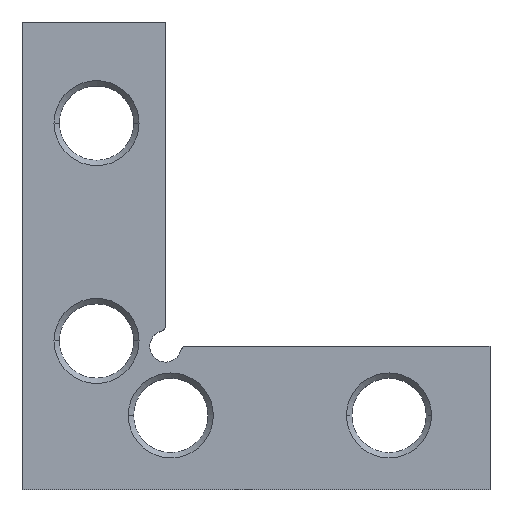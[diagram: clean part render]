
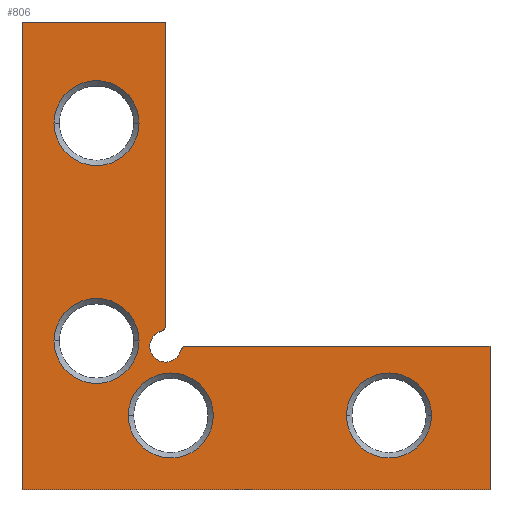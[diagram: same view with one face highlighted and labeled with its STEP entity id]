
A CAD part, top view. The second image highlights one B-rep face of the part: STEP entity #806.
In plain terms, the highlighted planar face has unit normal (0, 0, 1).
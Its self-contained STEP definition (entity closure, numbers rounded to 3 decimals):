
#6 = AXIS2_PLACEMENT_3D ( 'NONE', #348, #173, #773 ) ;
#9 = VECTOR ( 'NONE', #617, 1000. ) ;
#13 = EDGE_CURVE ( 'NONE', #371, #890, #328, .T. ) ;
#15 = DIRECTION ( 'NONE',  ( 0., -1., 0. ) ) ;
#19 = AXIS2_PLACEMENT_3D ( 'NONE', #51, #151, #832 ) ;
#20 = FACE_BOUND ( 'NONE', #830, .T. ) ;
#31 = CARTESIAN_POINT ( 'NONE',  ( 3.476, -16.21, 5. ) ) ;
#39 = CARTESIAN_POINT ( 'NONE',  ( -17.543, -7.789, 5. ) ) ;
#51 = CARTESIAN_POINT ( 'NONE',  ( -17.053, -16.21, 5. ) ) ;
#54 = DIRECTION ( 'NONE',  ( -1., 0., 0. ) ) ;
#55 = DIRECTION ( 'NONE',  ( 0., 1., 0. ) ) ;
#66 = VECTOR ( 'NONE', #785, 1000. ) ;
#75 = DIRECTION ( 'NONE',  ( 0., 0., -1. ) ) ;
#81 = ORIENTED_EDGE ( 'NONE', *, *, #419, .T. ) ;
#83 = ORIENTED_EDGE ( 'NONE', *, *, #537, .T. ) ;
#85 = DIRECTION ( 'NONE',  ( 0., 0., -1. ) ) ;
#92 = VECTOR ( 'NONE', #15, 1000. ) ;
#97 = EDGE_CURVE ( 'NONE', #893, #360, #474, .T. ) ;
#111 = CARTESIAN_POINT ( 'NONE',  ( -17.917, -8.273, 5. ) ) ;
#112 = CARTESIAN_POINT ( 'NONE',  ( 7.476, -16.21, 5. ) ) ;
#120 = DIRECTION ( 'NONE',  ( 0., 0., -1. ) ) ;
#129 = CARTESIAN_POINT ( 'NONE',  ( -13.053, -16.21, 5. ) ) ;
#130 = EDGE_CURVE ( 'NONE', #772, #890, #187, .T. ) ;
#133 = VERTEX_POINT ( 'NONE', #129 ) ;
#141 = VERTEX_POINT ( 'NONE', #230 ) ;
#151 = DIRECTION ( 'NONE',  ( 0., 0., -1. ) ) ;
#153 = CARTESIAN_POINT ( 'NONE',  ( 12.976, -23.201, 5. ) ) ;
#164 = PLANE ( 'NONE',  #510 ) ;
#173 = DIRECTION ( 'NONE',  ( 0., 0., -1. ) ) ;
#183 = AXIS2_PLACEMENT_3D ( 'NONE', #188, #288, #978 ) ;
#187 = CIRCLE ( 'NONE', #855, 0.5 ) ;
#188 = CARTESIAN_POINT ( 'NONE',  ( -17.543, -9.71, 5. ) ) ;
#190 = EDGE_CURVE ( 'NONE', #999, #893, #641, .T. ) ;
#210 = CARTESIAN_POINT ( 'NONE',  ( -28.043, 11.292, 5. ) ) ;
#212 = LINE ( 'NONE', #736, #1042 ) ;
#218 = VERTEX_POINT ( 'NONE', #239 ) ;
#219 = AXIS2_PLACEMENT_3D ( 'NONE', #969, #542, #1049 ) ;
#228 = ORIENTED_EDGE ( 'NONE', *, *, #733, .T. ) ;
#230 = CARTESIAN_POINT ( 'NONE',  ( -16.107, -10.084, 5. ) ) ;
#236 = CARTESIAN_POINT ( 'NONE',  ( -31.053, 20.792, 5. ) ) ;
#239 = CARTESIAN_POINT ( 'NONE',  ( -0.524, -16.21, 5. ) ) ;
#253 = FACE_BOUND ( 'NONE', #463, .T. ) ;
#261 = CARTESIAN_POINT ( 'NONE',  ( 0., 0., 5. ) ) ;
#287 = LINE ( 'NONE', #413, #514 ) ;
#288 = DIRECTION ( 'NONE',  ( 0., 0., 1. ) ) ;
#290 = EDGE_CURVE ( 'NONE', #360, #435, #287, .T. ) ;
#302 = DIRECTION ( 'NONE',  ( -1., 0., 0. ) ) ;
#303 = AXIS2_PLACEMENT_3D ( 'NONE', #31, #120, #302 ) ;
#304 = DIRECTION ( 'NONE',  ( 1., 0., 0. ) ) ;
#309 = EDGE_CURVE ( 'NONE', #611, #425, #485, .T. ) ;
#318 = VERTEX_POINT ( 'NONE', #650 ) ;
#324 = DIRECTION ( 'NONE',  ( 0., 0., -1. ) ) ;
#327 = CIRCLE ( 'NONE', #362, 0.5 ) ;
#328 = LINE ( 'NONE', #660, #92 ) ;
#342 = ORIENTED_EDGE ( 'NONE', *, *, #309, .T. ) ;
#348 = CARTESIAN_POINT ( 'NONE',  ( -24.043, -9.201, 5. ) ) ;
#359 = CARTESIAN_POINT ( 'NONE',  ( -20.043, -9.201, 5. ) ) ;
#360 = VERTEX_POINT ( 'NONE', #153 ) ;
#362 = AXIS2_PLACEMENT_3D ( 'NONE', #970, #373, #1053 ) ;
#371 = VERTEX_POINT ( 'NONE', #839 ) ;
#373 = DIRECTION ( 'NONE',  ( 0., 0., 1. ) ) ;
#381 = CIRCLE ( 'NONE', #6, 4. ) ;
#392 = DIRECTION ( 'NONE',  ( 0., 0., -1. ) ) ;
#407 = CIRCLE ( 'NONE', #1061, 4. ) ;
#411 = CARTESIAN_POINT ( 'NONE',  ( -24.043, 11.292, 5. ) ) ;
#413 = CARTESIAN_POINT ( 'NONE',  ( 12.976, -23.201, 5. ) ) ;
#414 = CARTESIAN_POINT ( 'NONE',  ( -18.043, -7.789, 5. ) ) ;
#419 = EDGE_CURVE ( 'NONE', #318, #693, #407, .T. ) ;
#425 = VERTEX_POINT ( 'NONE', #210 ) ;
#427 = EDGE_CURVE ( 'NONE', #693, #318, #381, .T. ) ;
#435 = VERTEX_POINT ( 'NONE', #1002 ) ;
#439 = AXIS2_PLACEMENT_3D ( 'NONE', #411, #324, #923 ) ;
#453 = ORIENTED_EDGE ( 'NONE', *, *, #290, .T. ) ;
#463 = EDGE_LOOP ( 'NONE', ( #552, #81 ) ) ;
#465 = CARTESIAN_POINT ( 'NONE',  ( -20.043, 11.292, 5. ) ) ;
#474 = LINE ( 'NONE', #505, #9 ) ;
#481 = EDGE_CURVE ( 'NONE', #999, #371, #778, .T. ) ;
#485 = CIRCLE ( 'NONE', #439, 4. ) ;
#488 = EDGE_CURVE ( 'NONE', #772, #141, #1008, .T. ) ;
#490 = CARTESIAN_POINT ( 'NONE',  ( -24.043, -9.201, 5. ) ) ;
#500 = DIRECTION ( 'NONE',  ( 0., 0., -1. ) ) ;
#505 = CARTESIAN_POINT ( 'NONE',  ( -31.053, -23.201, 5. ) ) ;
#510 = AXIS2_PLACEMENT_3D ( 'NONE', #261, #75, #1102 ) ;
#514 = VECTOR ( 'NONE', #55, 1000. ) ;
#516 = EDGE_LOOP ( 'NONE', ( #342, #744 ) ) ;
#527 = CARTESIAN_POINT ( 'NONE',  ( -21.053, -16.21, 5. ) ) ;
#533 = EDGE_CURVE ( 'NONE', #583, #218, #576, .T. ) ;
#536 = CIRCLE ( 'NONE', #219, 4. ) ;
#537 = EDGE_CURVE ( 'NONE', #643, #141, #327, .T. ) ;
#542 = DIRECTION ( 'NONE',  ( 0., 0., -1. ) ) ;
#546 = ORIENTED_EDGE ( 'NONE', *, *, #990, .T. ) ;
#550 = VECTOR ( 'NONE', #610, 1000. ) ;
#552 = ORIENTED_EDGE ( 'NONE', *, *, #427, .T. ) ;
#555 = CARTESIAN_POINT ( 'NONE',  ( -31.053, -23.201, 5. ) ) ;
#576 = CIRCLE ( 'NONE', #303, 4. ) ;
#583 = VERTEX_POINT ( 'NONE', #112 ) ;
#591 = DIRECTION ( 'NONE',  ( -1., 0., 0. ) ) ;
#595 = ORIENTED_EDGE ( 'NONE', *, *, #488, .F. ) ;
#604 = DIRECTION ( 'NONE',  ( -1., 0., 0. ) ) ;
#606 = ORIENTED_EDGE ( 'NONE', *, *, #130, .T. ) ;
#610 = DIRECTION ( 'NONE',  ( 1., 0., 0. ) ) ;
#611 = VERTEX_POINT ( 'NONE', #465 ) ;
#617 = DIRECTION ( 'NONE',  ( 1., 0., 0. ) ) ;
#641 = LINE ( 'NONE', #992, #66 ) ;
#643 = VERTEX_POINT ( 'NONE', #864 ) ;
#649 = ORIENTED_EDGE ( 'NONE', *, *, #1095, .F. ) ;
#650 = CARTESIAN_POINT ( 'NONE',  ( -28.043, -9.201, 5. ) ) ;
#660 = CARTESIAN_POINT ( 'NONE',  ( -17.543, 20.792, 5. ) ) ;
#673 = CARTESIAN_POINT ( 'NONE',  ( -31.053, 20.792, 5. ) ) ;
#675 = EDGE_CURVE ( 'NONE', #425, #611, #1088, .T. ) ;
#676 = ORIENTED_EDGE ( 'NONE', *, *, #481, .F. ) ;
#685 = FACE_BOUND ( 'NONE', #516, .T. ) ;
#693 = VERTEX_POINT ( 'NONE', #359 ) ;
#733 = EDGE_CURVE ( 'NONE', #218, #583, #536, .T. ) ;
#736 = CARTESIAN_POINT ( 'NONE',  ( -17.543, -9.71, 5. ) ) ;
#744 = ORIENTED_EDGE ( 'NONE', *, *, #675, .T. ) ;
#772 = VERTEX_POINT ( 'NONE', #111 ) ;
#773 = DIRECTION ( 'NONE',  ( -1., 0., 0. ) ) ;
#774 = ORIENTED_EDGE ( 'NONE', *, *, #97, .T. ) ;
#778 = LINE ( 'NONE', #673, #550 ) ;
#785 = DIRECTION ( 'NONE',  ( 0., -1., 0. ) ) ;
#804 = EDGE_LOOP ( 'NONE', ( #1009, #228 ) ) ;
#805 = ORIENTED_EDGE ( 'NONE', *, *, #930, .T. ) ;
#806 = ADVANCED_FACE ( 'NONE', ( #907, #253, #685, #20, #963 ), #164, .F. ) ;
#825 = CIRCLE ( 'NONE', #905, 4. ) ;
#830 = EDGE_LOOP ( 'NONE', ( #546, #805 ) ) ;
#832 = DIRECTION ( 'NONE',  ( -1., 0., 0. ) ) ;
#839 = CARTESIAN_POINT ( 'NONE',  ( -17.543, 20.792, 5. ) ) ;
#855 = AXIS2_PLACEMENT_3D ( 'NONE', #414, #945, #54 ) ;
#864 = CARTESIAN_POINT ( 'NONE',  ( -15.623, -9.71, 5. ) ) ;
#890 = VERTEX_POINT ( 'NONE', #39 ) ;
#893 = VERTEX_POINT ( 'NONE', #555 ) ;
#898 = ORIENTED_EDGE ( 'NONE', *, *, #190, .T. ) ;
#899 = CARTESIAN_POINT ( 'NONE',  ( -24.043, 11.292, 5. ) ) ;
#905 = AXIS2_PLACEMENT_3D ( 'NONE', #1015, #500, #591 ) ;
#907 = FACE_BOUND ( 'NONE', #804, .T. ) ;
#911 = EDGE_LOOP ( 'NONE', ( #649, #83, #595, #606, #959, #676, #898, #774, #453 ) ) ;
#919 = CIRCLE ( 'NONE', #19, 4. ) ;
#923 = DIRECTION ( 'NONE',  ( -1., 0., 0. ) ) ;
#928 = AXIS2_PLACEMENT_3D ( 'NONE', #899, #392, #987 ) ;
#930 = EDGE_CURVE ( 'NONE', #931, #133, #825, .T. ) ;
#931 = VERTEX_POINT ( 'NONE', #527 ) ;
#945 = DIRECTION ( 'NONE',  ( 0., 0., 1. ) ) ;
#959 = ORIENTED_EDGE ( 'NONE', *, *, #13, .F. ) ;
#963 = FACE_OUTER_BOUND ( 'NONE', #911, .T. ) ;
#969 = CARTESIAN_POINT ( 'NONE',  ( 3.476, -16.21, 5. ) ) ;
#970 = CARTESIAN_POINT ( 'NONE',  ( -15.623, -10.21, 5. ) ) ;
#978 = DIRECTION ( 'NONE',  ( 1., 0., 0. ) ) ;
#987 = DIRECTION ( 'NONE',  ( -1., 0., 0. ) ) ;
#990 = EDGE_CURVE ( 'NONE', #133, #931, #919, .T. ) ;
#992 = CARTESIAN_POINT ( 'NONE',  ( -31.053, 20.792, 5. ) ) ;
#999 = VERTEX_POINT ( 'NONE', #236 ) ;
#1002 = CARTESIAN_POINT ( 'NONE',  ( 12.976, -9.71, 5. ) ) ;
#1008 = CIRCLE ( 'NONE', #183, 1.484 ) ;
#1009 = ORIENTED_EDGE ( 'NONE', *, *, #533, .T. ) ;
#1015 = CARTESIAN_POINT ( 'NONE',  ( -17.053, -16.21, 5. ) ) ;
#1042 = VECTOR ( 'NONE', #304, 1000. ) ;
#1049 = DIRECTION ( 'NONE',  ( -1., 0., 0. ) ) ;
#1053 = DIRECTION ( 'NONE',  ( -1., 0., 0. ) ) ;
#1061 = AXIS2_PLACEMENT_3D ( 'NONE', #490, #85, #604 ) ;
#1088 = CIRCLE ( 'NONE', #928, 4. ) ;
#1095 = EDGE_CURVE ( 'NONE', #643, #435, #212, .T. ) ;
#1102 = DIRECTION ( 'NONE',  ( -1., 0., 0. ) ) ;
